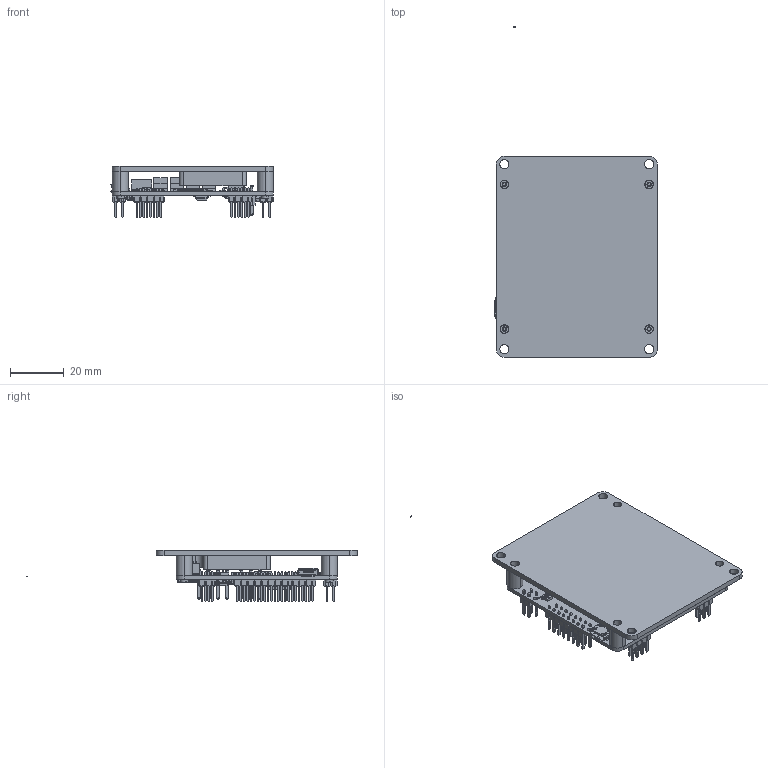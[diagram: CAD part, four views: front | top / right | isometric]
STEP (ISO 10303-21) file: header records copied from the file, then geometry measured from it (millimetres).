
FILE_DESCRIPTION (( 'STEP AP214' ), '1' );
FILE_NAME ('i038-01H1-Pinheader.STEP', '2016-02-16T15:34:27', ( '' ), ( '' ), 'SwSTEP 2.0', 'SolidWorks 2016', '' );
FILE_SCHEMA (( 'AUTOMOTIVE_DESIGN' ));
Length unit declared in the file: millimetre
Products named in the file (18): screw; mill-max-0600-0-05-15-00-00-01-0; i021-04M1; i038-01H1(nude); i038-01H1-Pinheader
Assembly tree (13 placements, depth 2):
  screw
  mill-max-0600-0-05-15-00-00-01-0
  screw
  i021-04M1
  screw
Bounding box: 60.55 x 123.3 x 19.29 mm (x, y, z)
Volume: 13430.6 mm3; surface area: 27200.4 mm2
Topology: 12 solids, 906 shells, 8784 faces, 24473 edges, 17025 vertices
Faces by surface type: plane 6036, cylinder 2175, bspline 515, cone 46, torus 12
Entity records: 388376 total; most frequent: CARTESIAN_POINT 76432, ORIENTED_EDGE 44178, DIRECTION 42660, EDGE_CURVE 23971, VECTOR 18206, LINE 18206, VERTEX_POINT 16743, AXIS2_PLACEMENT_3D 12227
